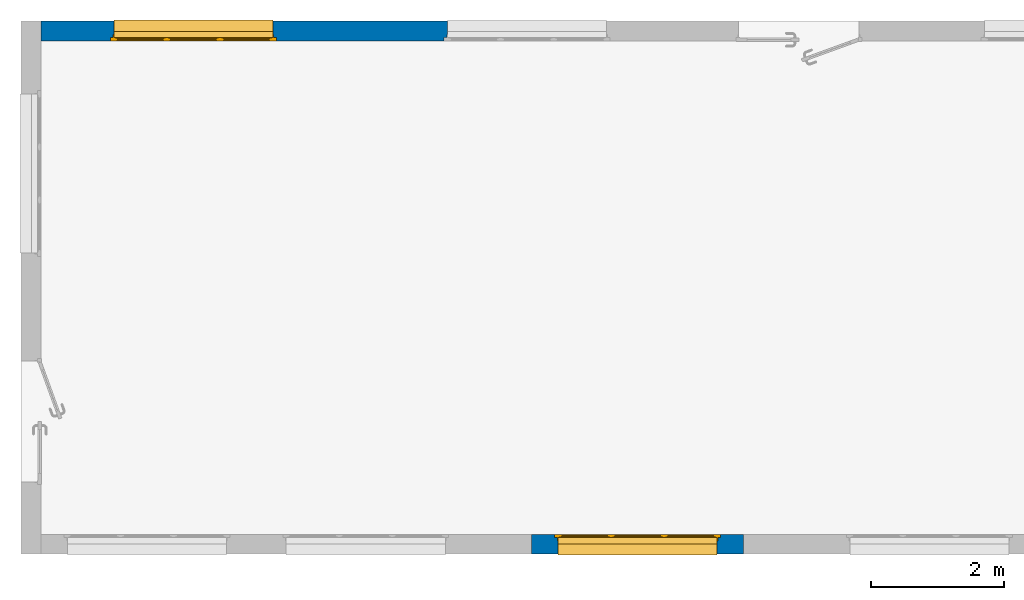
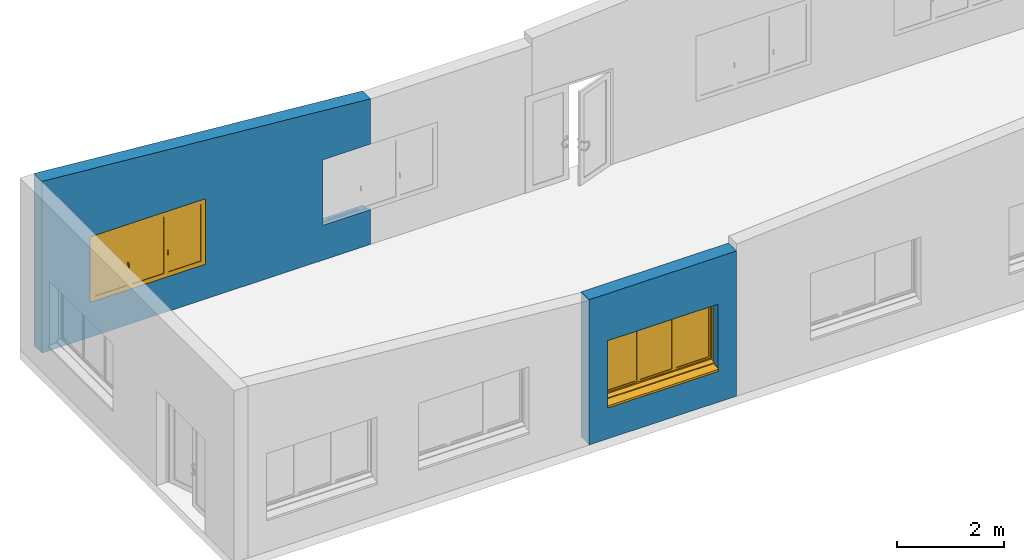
# One storey, part 3 of 8: 2 walls, 2 windows, 3 openings.
"""IFC2X3 building model written with IfcOpenShell, lengths in metres."""

from ifc_helpers import new_model, entity, si_unit, converted_unit, derived_unit, direction, frame, frame_2d, origin, place, context, subcontext, project, spatial, polyline, rectangle, extrude, clip, bounded_halfspace, faceted_brep, source, transform, mapped, material, material_list, layer, layer_set, layer_usage, type_object, type_shapes, element, fill, save


model = new_model("IFC2X3")

# Units and contexts
model_context = context("Model", 3, precision=1e-05, world=origin(), true_north=direction((6.12303176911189e-17, 1.0)))
body_context = subcontext(model_context, "Body", "Model", "MODEL_VIEW")
ifc_project = project(units=[si_unit("LENGTHUNIT", "METRE"), si_unit("AREAUNIT", "SQUARE_METRE"), si_unit("VOLUMEUNIT", "CUBIC_METRE"), converted_unit("PLANEANGLEUNIT", "DEGREE", entity("IfcRatioMeasure", 0.0174532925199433), si_unit("PLANEANGLEUNIT", "RADIAN"), dimensions=[0, 0, 0, 0, 0, 0, 0]), si_unit("MASSUNIT", "GRAM", prefix="KILO"), derived_unit("MASSDENSITYUNIT", [(si_unit("MASSUNIT", "GRAM", prefix="KILO"), 1), (si_unit("LENGTHUNIT", "METRE"), -3)]), si_unit("TIMEUNIT", "SECOND"), si_unit("FREQUENCYUNIT", "HERTZ"), si_unit("THERMODYNAMICTEMPERATUREUNIT", "DEGREE_CELSIUS"), derived_unit("THERMALTRANSMITTANCEUNIT", [(si_unit("MASSUNIT", "GRAM", prefix="KILO"), 1), (si_unit("THERMODYNAMICTEMPERATUREUNIT", "KELVIN"), -1), (si_unit("TIMEUNIT", "SECOND"), -3)]), derived_unit("VOLUMETRICFLOWRATEUNIT", [(si_unit("LENGTHUNIT", "METRE"), 3), (si_unit("TIMEUNIT", "SECOND"), -1)]), si_unit("ELECTRICCURRENTUNIT", "AMPERE"), si_unit("ELECTRICVOLTAGEUNIT", "VOLT"), si_unit("POWERUNIT", "WATT"), si_unit("FORCEUNIT", "NEWTON", prefix="KILO"), si_unit("ILLUMINANCEUNIT", "LUX"), si_unit("LUMINOUSFLUXUNIT", "LUMEN"), si_unit("LUMINOUSINTENSITYUNIT", "CANDELA"), derived_unit("USERDEFINED", [(si_unit("MASSUNIT", "GRAM", prefix="KILO"), -1), (si_unit("LENGTHUNIT", "METRE"), -2), (si_unit("TIMEUNIT", "SECOND"), 3), (si_unit("LUMINOUSFLUXUNIT", "LUMEN"), 1)]), derived_unit("LINEARVELOCITYUNIT", [(si_unit("LENGTHUNIT", "METRE"), 1), (si_unit("TIMEUNIT", "SECOND"), -1)]), si_unit("PRESSUREUNIT", "PASCAL"), derived_unit("USERDEFINED", [(si_unit("LENGTHUNIT", "METRE"), -2), (si_unit("MASSUNIT", "GRAM", prefix="KILO"), 1), (si_unit("TIMEUNIT", "SECOND"), -2)])], contexts=[model_context])

# Site, building, storey
site_placement = place(None, origin())
site = spatial("IfcSite", under=ifc_project, at=site_placement, Name="Default", CompositionType="ELEMENT")
building_placement = place(site_placement, origin())
building = spatial("IfcBuilding", under=site, at=building_placement, CompositionType="ELEMENT")
storey_placement = place(building_placement, frame((0.0, 0.0, 3.3)))
storey = spatial("IfcBuildingStorey", under=building, at=storey_placement, Name="Niveau 1", CompositionType="ELEMENT", Elevation=3.3)

# Wall, openings, window
ifc_material_1 = material(Name="Maçonnerie - Voile BA")
ifc_layer_1 = layer(ifc_material_1, 0.18)
ifc_material_2 = material(Name="Maçonnerie - Isolant")
ifc_layer_2 = layer(ifc_material_2, 0.12)
ifc_layer_set = layer_set([ifc_layer_1, ifc_layer_2], Name="Mur de base:Ext. Voile BA 18 + Isolant 12")
ifc_layer_usage_1 = layer_usage(ifc_layer_set, "AXIS2", "NEGATIVE", 0.15)
wall_type = type_object("IfcWallType", Name="Mur de base:Ext. Voile BA 18 + Isolant 12", PredefinedType="STANDARD", material=ifc_layer_set)
wall_1_placement = place(storey_placement, frame((-12.0839657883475, 2.85911858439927, 0.0)))
wall_1 = element("IfcWallStandardCase", 1, at=wall_1_placement, inside=storey, type_object=wall_type, material=ifc_layer_usage_1, Name="Mur de base:Ext. Voile BA 18 + Isolant 12", ObjectType="Mur de base:Ext. Voile BA 18 + Isolant 12", context=body_context, shape_type="Clipping", body=[
    clip(extrude(rectangle(XDim=7.13129703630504, YDim=0.3, at=frame_2d((3.56564851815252, -4.16333634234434e-17), x_axis=(-1.0, 0.0))), origin(), (0.0, 0.0, 1.0), 3.94), bounded_halfspace(frame((0.0, -0.15, 3.94), z_axis=(0.084127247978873, 0.0, 0.996455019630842), x_axis=(-0.996455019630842, 0.0, 0.084127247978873)), False, frame((0.0, -0.15, 3.94)), polyline([(0.0, 0.0), (7.13129703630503, 0.0), (7.13129703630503, 0.3), (0.0, 0.3), (0.0, 0.0)]))),
])
opening_1_placement = place(wall_1_placement, frame((6.08129703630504, -0.50000000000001, 0.72)))
element("IfcOpeningElement", 2, at=opening_1_placement, cuts=wall_1, Name="Mur de base:Ext. Voile BA 18 + Isolant 12", ObjectType="Opening", context=body_context, shape_type="Brep", body=[
    faceted_brep([(0.0499999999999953, 0.429999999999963, 0.0800000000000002), (0.0499999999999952, 0.450000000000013, 0.0800000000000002), (0.0499999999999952, 0.450000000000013, 1.53), (0.0499999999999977, 1.0, 1.53), (0.0499999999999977, 1.0, 0.0), (0.0499999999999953, 0.429999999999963, 0.0), (2.44999999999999, 0.0, 0.0800000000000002), (2.45, 0.35000000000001, 0.0800000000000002), (2.45, 0.35000000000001, 1.53), (2.44999999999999, 0.0, 1.53), (0.0499999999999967, 0.0, 0.0800000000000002), (0.0499999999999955, 0.35000000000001, 0.0800000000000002), (0.0, 0.35000000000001, 0.0800000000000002), (0.0, 0.400000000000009, 0.0800000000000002), (0.0399999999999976, 0.40000000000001, 0.0800000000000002), (0.0399999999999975, 0.450000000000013, 0.0800000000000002), (2.45, 0.429999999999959, 0.0800000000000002), (2.45, 0.450000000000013, 0.0800000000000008), (2.46, 0.450000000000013, 0.0800000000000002), (2.46, 0.400000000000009, 0.0800000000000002), (2.5, 0.400000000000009, 0.0800000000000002), (2.5, 0.35000000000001, 0.0800000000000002), (0.0499999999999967, 0.0, 1.53), (2.44999999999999, 0.450000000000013, 1.53), (2.45, 1.0, 1.53), (2.45, 1.0, 0.0), (2.45, 0.429999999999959, 0.0), (0.0, 0.35000000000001, 1.58), (0.0, 0.40000000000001, 1.58), (2.5, 0.40000000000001, 1.58), (2.46, 0.40000000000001, 1.54), (0.0399999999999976, 0.40000000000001, 1.54), (0.0399999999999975, 0.450000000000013, 1.54), (2.46, 0.450000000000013, 1.54), (0.0499999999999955, 0.35000000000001, 1.53), (2.5, 0.35000000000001, 1.58)], [[[0, 1, 2, 3, 4, 5]], [[6, 7, 8, 9]], [[10, 11, 12, 13, 14, 15, 1, 0, 16, 17, 18, 19, 20, 21, 7, 6]], [[10, 6, 9, 22]], [[3, 2, 23, 24]], [[3, 24, 25, 4]], [[4, 25, 26, 5]], [[5, 26, 16, 0]], [[12, 27, 28, 13]], [[13, 28, 29, 20, 19, 30, 31, 14]], [[14, 31, 32, 15]], [[15, 32, 33, 18, 17, 23, 2, 1]], [[11, 34, 8, 7, 21, 35, 27, 12]], [[27, 35, 29, 28]], [[30, 33, 32, 31]], [[29, 35, 21, 20]], [[19, 18, 33, 30]], [[9, 8, 34, 22]], [[24, 23, 17, 16, 26, 25]], [[22, 34, 11, 10]]]),
])
opening_2_placement = place(wall_1_placement, frame((1.05000000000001, -0.500000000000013, 0.720000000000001)))
opening_2 = element("IfcOpeningElement", 3, at=opening_2_placement, cuts=wall_1, Name="Mur de base:Ext. Voile BA 18 + Isolant 12", ObjectType="Opening", context=body_context, shape_type="Brep", body=[
    faceted_brep([(0.0499999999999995, 0.429999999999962, 0.0800000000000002), (0.0499999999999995, 0.450000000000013, 0.0800000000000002), (0.0499999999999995, 0.450000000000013, 1.53), (0.0500000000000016, 1.0, 1.53), (0.0500000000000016, 1.0, 0.0), (0.0499999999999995, 0.429999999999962, 0.0), (2.45, 0.0, 0.0800000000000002), (2.45, 0.350000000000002, 0.0800000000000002), (2.45, 0.350000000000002, 1.53), (2.45, 0.0, 1.53), (0.0499999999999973, 0.0, 0.0800000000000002), (0.0499999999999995, 0.35000000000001, 0.0800000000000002), (0.0, 0.35000000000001, 0.0800000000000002), (0.0, 0.400000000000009, 0.0800000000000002), (0.0399999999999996, 0.400000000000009, 0.0800000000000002), (0.0399999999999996, 0.450000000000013, 0.0800000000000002), (2.45, 0.42999999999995, 0.0800000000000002), (2.45, 0.450000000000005, 0.0800000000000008), (2.46, 0.450000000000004, 0.0800000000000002), (2.46, 0.400000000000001, 0.0800000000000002), (2.5, 0.400000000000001, 0.0800000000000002), (2.5, 0.350000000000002, 0.0800000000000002), (0.0499999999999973, 0.0, 1.53), (2.45, 0.450000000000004, 1.53), (2.45, 1.0, 1.53), (2.45, 1.0, 0.0), (2.45, 0.429999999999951, 0.0), (0.0, 0.35000000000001, 1.58), (0.0, 0.40000000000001, 1.58), (2.5, 0.400000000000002, 1.58), (2.46, 0.400000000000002, 1.54), (0.0399999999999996, 0.400000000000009, 1.54), (0.0399999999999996, 0.450000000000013, 1.54), (2.46, 0.450000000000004, 1.54), (0.0499999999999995, 0.35000000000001, 1.53), (2.5, 0.350000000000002, 1.58)], [[[0, 1, 2, 3, 4, 5]], [[6, 7, 8, 9]], [[10, 11, 12, 13, 14, 15, 1, 0, 16, 17, 18, 19, 20, 21, 7, 6]], [[10, 6, 9, 22]], [[3, 2, 23, 24]], [[3, 24, 25, 4]], [[4, 25, 26, 5]], [[5, 26, 16, 0]], [[12, 27, 28, 13]], [[13, 28, 29, 20, 19, 30, 31, 14]], [[14, 31, 32, 15]], [[15, 32, 33, 18, 17, 23, 2, 1]], [[11, 34, 8, 7, 21, 35, 27, 12]], [[27, 35, 29, 28]], [[30, 33, 32, 31]], [[29, 35, 21, 20]], [[19, 18, 33, 30]], [[9, 8, 34, 22]], [[24, 23, 17, 16, 26, 25]], [[22, 34, 11, 10]]]),
])
ifc_material_3 = material(Name="Fenêtre - Poignée")
ifc_material_4 = material(Name="Fenêtre - Appui")
ifc_material_5 = material(Name="Fenêtre - Cadre")
ifc_material_6 = material(Name="Fenêtre - Vitrage")
ifc_material_list_1 = material_list([ifc_material_3, ifc_material_4, ifc_material_5, ifc_material_6])
ifc_material_list_2 = material_list([ifc_material_3, ifc_material_4, ifc_material_5, ifc_material_6])
window_style = type_object("IfcWindowStyle", Name="2.40m x 1.45m - Appui Béton", ConstructionType="NOTDEFINED", OperationType="TRIPLE_PANEL_VERTICAL", ParameterTakesPrecedence=False, Sizeable=False, material=ifc_material_list_2)
shared_shape = source(origin(), body_context, "Body", "Brep", [
    faceted_brep([(0.83064600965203, -0.656000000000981, 0.702033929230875), (0.83203392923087, -0.656000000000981, 0.700646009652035), (0.83203392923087, -0.656000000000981, 0.68933230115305), (0.830667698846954, -0.656000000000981, 0.687966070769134), (0.819332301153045, -0.656000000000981, 0.687966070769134), (0.817966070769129, -0.656000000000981, 0.68933230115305), (0.817966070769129, -0.656000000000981, 0.700646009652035), (0.819353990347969, -0.656000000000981, 0.702033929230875), (0.83064600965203, -0.66891354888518, 0.702033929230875), (0.83203392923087, -0.668338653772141, 0.700646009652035), (0.83203392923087, -0.681646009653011, 0.687338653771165), (0.83203392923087, -0.681646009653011, 0.600000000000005), (0.83203392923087, -0.670332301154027, 0.600000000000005), (0.83203392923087, -0.670332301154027, 0.68265236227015), (0.83203392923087, -0.663652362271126, 0.68933230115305), (0.830667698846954, -0.663086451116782, 0.687966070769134), (0.819332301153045, -0.663086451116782, 0.687966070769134), (0.817966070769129, -0.663652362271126, 0.68933230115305), (0.817966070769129, -0.670332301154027, 0.68265236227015), (0.817966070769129, -0.670332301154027, 0.600000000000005), (0.817966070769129, -0.681646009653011, 0.600000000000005), (0.817966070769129, -0.681646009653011, 0.687338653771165), (0.817966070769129, -0.668338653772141, 0.700646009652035), (0.81935399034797, -0.66891354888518, 0.702033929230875), (0.83064600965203, -0.683033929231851, 0.687913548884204), (0.830667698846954, -0.668966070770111, 0.682086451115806), (0.819332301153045, -0.668966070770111, 0.682086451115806), (0.819353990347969, -0.683033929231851, 0.687913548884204), (0.83064600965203, -0.683033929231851, 0.600000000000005), (0.819353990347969, -0.683033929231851, 0.600000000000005), (0.819332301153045, -0.668966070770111, 0.600000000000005), (0.830667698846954, -0.668966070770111, 0.600000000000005)], [[[0, 1, 2, 3, 4, 5, 6, 7]], [[1, 0, 8, 9]], [[2, 1, 9, 10, 11, 12, 13, 14]], [[3, 2, 14, 15]], [[4, 3, 15, 16]], [[5, 4, 16, 17]], [[6, 5, 17, 18, 19, 20, 21, 22]], [[7, 6, 22, 23]], [[0, 7, 23, 8]], [[9, 8, 24, 10]], [[15, 14, 13, 25]], [[16, 15, 25, 26]], [[17, 16, 26, 18]], [[23, 22, 21, 27]], [[8, 23, 27, 24]], [[28, 29, 20, 19, 30, 31, 12, 11]], [[10, 24, 28, 11]], [[25, 13, 12, 31]], [[26, 25, 31, 30]], [[18, 26, 30, 19]], [[27, 21, 20, 29]], [[24, 27, 29, 28]]]),
    faceted_brep([(0.832000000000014, -0.656000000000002, 0.720000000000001), (0.817999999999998, -0.656000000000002, 0.720000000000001), (0.812999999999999, -0.656000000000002, 0.715000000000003), (0.812999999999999, -0.656000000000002, 0.644999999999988), (0.817999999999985, -0.656000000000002, 0.640000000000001), (0.832000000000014, -0.656000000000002, 0.640000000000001), (0.837, -0.656000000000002, 0.644999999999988), (0.837, -0.656000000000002, 0.715000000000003), (0.832000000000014, -0.650000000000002, 0.720000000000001), (0.837, -0.650000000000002, 0.715000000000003), (0.837, -0.650000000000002, 0.644999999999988), (0.832000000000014, -0.650000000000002, 0.640000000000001), (0.817999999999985, -0.650000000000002, 0.640000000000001), (0.812999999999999, -0.650000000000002, 0.644999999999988), (0.812999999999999, -0.650000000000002, 0.715000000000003), (0.817999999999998, -0.650000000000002, 0.720000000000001)], [[[0, 1, 2, 3, 4, 5, 6, 7]], [[8, 9, 10, 11, 12, 13, 14, 15]], [[1, 0, 8, 15]], [[2, 1, 15, 14]], [[3, 2, 14, 13]], [[4, 3, 13, 12]], [[5, 4, 12, 11]], [[6, 5, 11, 10]], [[7, 6, 10, 9]], [[0, 7, 9, 8]]]),
    faceted_brep([(1.68064600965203, -0.656000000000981, 0.702033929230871), (1.68203392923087, -0.656000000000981, 0.700646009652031), (1.68203392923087, -0.656000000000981, 0.689332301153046), (1.68066769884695, -0.656000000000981, 0.68796607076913), (1.66933230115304, -0.656000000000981, 0.68796607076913), (1.66796607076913, -0.656000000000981, 0.689332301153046), (1.66796607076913, -0.656000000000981, 0.700646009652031), (1.66935399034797, -0.656000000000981, 0.702033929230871), (1.68064600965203, -0.66891354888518, 0.702033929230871), (1.68203392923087, -0.668338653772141, 0.700646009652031), (1.68203392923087, -0.681646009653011, 0.687338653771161), (1.68203392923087, -0.681646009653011, 0.600000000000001), (1.68203392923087, -0.670332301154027, 0.600000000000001), (1.68203392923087, -0.670332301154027, 0.682652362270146), (1.68203392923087, -0.663652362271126, 0.689332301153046), (1.68066769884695, -0.663086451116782, 0.68796607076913), (1.66933230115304, -0.663086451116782, 0.68796607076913), (1.66796607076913, -0.663652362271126, 0.689332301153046), (1.66796607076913, -0.670332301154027, 0.682652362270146), (1.66796607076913, -0.670332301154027, 0.600000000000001), (1.66796607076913, -0.681646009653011, 0.600000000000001), (1.66796607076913, -0.681646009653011, 0.687338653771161), (1.66796607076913, -0.668338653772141, 0.700646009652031), (1.66935399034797, -0.66891354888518, 0.702033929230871), (1.68064600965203, -0.683033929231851, 0.6879135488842), (1.68066769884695, -0.668966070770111, 0.682086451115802), (1.66933230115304, -0.668966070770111, 0.682086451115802), (1.66935399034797, -0.683033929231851, 0.6879135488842), (1.68064600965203, -0.683033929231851, 0.600000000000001), (1.66935399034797, -0.683033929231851, 0.600000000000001), (1.66933230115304, -0.668966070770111, 0.600000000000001), (1.68066769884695, -0.668966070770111, 0.600000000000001)], [[[0, 1, 2, 3, 4, 5, 6, 7]], [[1, 0, 8, 9]], [[2, 1, 9, 10, 11, 12, 13, 14]], [[3, 2, 14, 15]], [[4, 3, 15, 16]], [[5, 4, 16, 17]], [[6, 5, 17, 18, 19, 20, 21, 22]], [[7, 6, 22, 23]], [[0, 7, 23, 8]], [[9, 8, 24, 10]], [[15, 14, 13, 25]], [[16, 15, 25, 26]], [[17, 16, 26, 18]], [[23, 22, 21, 27]], [[8, 23, 27, 24]], [[28, 29, 20, 19, 30, 31, 12, 11]], [[10, 24, 28, 11]], [[25, 13, 12, 31]], [[26, 25, 31, 30]], [[18, 26, 30, 19]], [[27, 21, 20, 29]], [[24, 27, 29, 28]]]),
    faceted_brep([(1.68200000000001, -0.656000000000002, 0.719999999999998), (1.668, -0.656000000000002, 0.719999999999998), (1.663, -0.656000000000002, 0.714999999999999), (1.663, -0.656000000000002, 0.644999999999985), (1.66799999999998, -0.656000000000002, 0.639999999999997), (1.68200000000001, -0.656000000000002, 0.639999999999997), (1.687, -0.656000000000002, 0.644999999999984), (1.687, -0.656000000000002, 0.714999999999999), (1.68200000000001, -0.650000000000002, 0.719999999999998), (1.687, -0.650000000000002, 0.714999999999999), (1.687, -0.650000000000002, 0.644999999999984), (1.68200000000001, -0.650000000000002, 0.639999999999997), (1.66799999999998, -0.650000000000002, 0.639999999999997), (1.663, -0.650000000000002, 0.644999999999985), (1.663, -0.650000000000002, 0.714999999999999), (1.668, -0.650000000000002, 0.719999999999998)], [[[0, 1, 2, 3, 4, 5, 6, 7]], [[8, 9, 10, 11, 12, 13, 14, 15]], [[1, 0, 8, 15]], [[2, 1, 15, 14]], [[3, 2, 14, 13]], [[4, 3, 13, 12]], [[5, 4, 12, 11]], [[6, 5, 11, 10]], [[7, 6, 10, 9]], [[0, 7, 9, 8]]]),
    faceted_brep([(0.050000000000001, -0.569999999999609, 0.0799999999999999), (0.0500000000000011, -0.519999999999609, 0.0799999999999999), (0.0500000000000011, -0.519999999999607, 0.0650000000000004), (0.0500000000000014, -0.334999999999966, 0.0455557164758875), (0.0500000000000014, -0.334999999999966, 0.0), (0.050000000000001, -0.569999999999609, 0.0), (2.45, -0.569999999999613, 0.0799999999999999), (2.45, -0.569999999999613, 0.0), (2.45, -0.33499999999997, 0.0), (2.45, -0.33499999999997, 0.0455557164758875), (2.45, -0.519999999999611, 0.0650000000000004), (2.45, -0.519999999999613, 0.0799999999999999)], [[[0, 1, 2, 3, 4, 5]], [[6, 7, 8, 9, 10, 11]], [[1, 0, 6, 11]], [[2, 1, 11, 10]], [[3, 2, 10, 9]], [[4, 3, 9, 8]], [[5, 4, 8, 7]], [[0, 5, 7, 6]]]),
    faceted_brep([(1.65, -0.610000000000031, 1.53), (1.65, -0.650000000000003, 1.53), (1.65, -0.650000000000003, 0.13), (1.65, -0.610000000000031, 0.13), (0.849999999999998, -0.65, 0.13), (0.849999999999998, -0.610000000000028, 0.13), (0.849999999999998, -0.65, 1.53), (0.899999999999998, -0.65, 0.18), (0.899999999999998, -0.65, 1.48), (1.6, -0.650000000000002, 1.48), (1.6, -0.650000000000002, 0.18), (0.849999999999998, -0.610000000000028, 1.53), (1.6, -0.61000000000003, 0.179999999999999), (1.6, -0.61000000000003, 1.48), (0.899999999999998, -0.610000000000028, 1.48), (0.899999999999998, -0.610000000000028, 0.18)], [[[0, 1, 2, 3]], [[3, 2, 4, 5]], [[2, 1, 6, 4], [7, 8, 9, 10]], [[5, 4, 6, 11]], [[5, 11, 0, 3], [12, 13, 14, 15]], [[9, 13, 12, 10]], [[10, 12, 15, 7]], [[7, 15, 14, 8]], [[11, 6, 1, 0]], [[8, 14, 13, 9]]]),
    faceted_brep([(0.849999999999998, -0.610000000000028, 1.53), (0.849999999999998, -0.650000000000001, 1.53), (0.849999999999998, -0.650000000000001, 0.13), (0.849999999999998, -0.610000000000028, 0.13), (0.0499999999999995, -0.649999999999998, 0.13), (0.0499999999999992, -0.610000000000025, 0.13), (0.0499999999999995, -0.649999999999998, 1.53), (0.0999999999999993, -0.649999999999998, 0.18), (0.0999999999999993, -0.649999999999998, 1.48), (0.799999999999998, -0.650000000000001, 1.48), (0.799999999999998, -0.650000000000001, 0.18), (0.0499999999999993, -0.610000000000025, 1.53), (0.799999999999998, -0.610000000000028, 0.18), (0.799999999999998, -0.610000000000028, 1.48), (0.0999999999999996, -0.610000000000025, 1.48), (0.0999999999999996, -0.610000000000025, 0.18)], [[[0, 1, 2, 3]], [[3, 2, 4, 5]], [[2, 1, 6, 4], [7, 8, 9, 10]], [[5, 4, 6, 11]], [[5, 11, 0, 3], [12, 13, 14, 15]], [[9, 13, 12, 10]], [[10, 12, 15, 7]], [[7, 15, 14, 8]], [[11, 6, 1, 0]], [[8, 14, 13, 9]]]),
    faceted_brep([(1.7, -0.624000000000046, 0.18), (1.7, -0.624000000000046, 1.48), (2.4, -0.624000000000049, 1.48), (2.4, -0.624000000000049, 0.18), (1.7, -0.636000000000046, 0.18), (1.7, -0.636000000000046, 1.48), (2.4, -0.636000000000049, 1.48), (2.4, -0.636000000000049, 0.18)], [[[0, 1, 2, 3]], [[1, 0, 4, 5]], [[3, 2, 6, 7]], [[0, 3, 7, 4]], [[2, 1, 5, 6]], [[4, 7, 6, 5]]]),
    faceted_brep([(0.799999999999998, -0.624000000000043, 0.18), (0.799999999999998, -0.624000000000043, 1.48), (0.799999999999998, -0.636000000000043, 1.48), (0.799999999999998, -0.636000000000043, 0.18), (0.0999999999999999, -0.624000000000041, 0.18), (0.0999999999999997, -0.636000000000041, 0.18), (0.0999999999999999, -0.624000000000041, 1.48), (0.0999999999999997, -0.636000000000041, 1.48)], [[[0, 1, 2, 3]], [[4, 0, 3, 5]], [[6, 4, 5, 7]], [[7, 5, 3, 2]], [[1, 6, 7, 2]], [[6, 1, 0, 4]]]),
    faceted_brep([(1.6, -0.624000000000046, 0.18), (1.6, -0.624000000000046, 1.48), (1.6, -0.636000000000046, 1.48), (1.6, -0.636000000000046, 0.18), (0.899999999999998, -0.624000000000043, 0.18), (0.899999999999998, -0.636000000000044, 0.18), (0.899999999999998, -0.624000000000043, 1.48), (0.899999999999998, -0.636000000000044, 1.48)], [[[0, 1, 2, 3]], [[4, 0, 3, 5]], [[6, 4, 5, 7]], [[1, 6, 7, 2]], [[7, 5, 3, 2]], [[6, 1, 0, 4]]]),
    faceted_brep([(1.7, -0.610000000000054, 1.48), (1.7, -0.650000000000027, 1.48), (1.7, -0.650000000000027, 0.18), (1.7, -0.610000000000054, 0.18), (2.4, -0.650000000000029, 0.18), (2.4, -0.610000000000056, 0.18), (2.4, -0.650000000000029, 1.48), (2.45, -0.65000000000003, 0.13), (2.45, -0.65000000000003, 1.53), (1.65, -0.650000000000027, 1.53), (1.65, -0.650000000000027, 0.13), (2.4, -0.610000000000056, 1.48), (1.65, -0.610000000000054, 0.13), (1.65, -0.610000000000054, 1.53), (2.45, -0.610000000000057, 1.53), (2.45, -0.610000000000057, 0.13)], [[[0, 1, 2, 3]], [[3, 2, 4, 5]], [[2, 1, 6, 4], [7, 8, 9, 10]], [[5, 4, 6, 11]], [[5, 11, 0, 3], [12, 13, 14, 15]], [[9, 13, 12, 10]], [[10, 12, 15, 7]], [[7, 15, 14, 8]], [[11, 6, 1, 0]], [[8, 14, 13, 9]]], outer=[[True], [True], [False, True], [True], [False, True], [True], [True], [True], [True], [True]]),
    faceted_brep([(0.0, -0.650000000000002, 0.0799999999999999), (0.0, -0.600000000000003, 0.0799999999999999), (0.0499999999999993, -0.600000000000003, 0.0799999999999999), (0.0499999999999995, -0.51500000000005, 0.0800000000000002), (2.45, -0.515000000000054, 0.0799999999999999), (2.45, -0.600000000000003, 0.0800000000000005), (2.5, -0.600000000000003, 0.0799999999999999), (2.5, -0.650000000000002, 0.0799999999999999), (0.0, -0.650000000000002, 1.58), (0.0, -0.600000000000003, 1.58), (2.5, -0.600000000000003, 1.58), (2.45, -0.600000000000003, 0.119376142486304), (0.0499999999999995, -0.600000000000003, 0.119376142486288), (0.0649999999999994, -0.600000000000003, 1.515), (0.0649999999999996, -0.600000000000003, 0.145), (2.435, -0.600000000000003, 0.145), (2.435, -0.600000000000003, 1.515), (0.0499999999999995, -0.50500000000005, 0.0939209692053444), (0.0499999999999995, -0.50500000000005, 0.0749999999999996), (0.0499999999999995, -0.51500000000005, 0.0749999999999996), (2.45, -0.515000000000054, 0.0749999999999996), (2.45, -0.505000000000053, 0.0749999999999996), (2.45, -0.505000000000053, 0.0939209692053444), (2.5, -0.650000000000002, 1.58), (2.45, -0.650000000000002, 1.53), (2.45, -0.650000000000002, 0.13), (0.0499999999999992, -0.65, 0.13), (0.0499999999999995, -0.650000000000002, 1.53), (0.0649999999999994, -0.610000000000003, 1.515), (0.0649999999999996, -0.610000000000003, 0.145), (2.435, -0.610000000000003, 0.145), (2.435, -0.610000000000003, 1.515), (2.45, -0.610000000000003, 1.53), (0.0499999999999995, -0.610000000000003, 1.53), (0.0499999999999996, -0.610000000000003, 0.13), (2.45, -0.610000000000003, 0.13)], [[[0, 1, 2, 3, 4, 5, 6, 7]], [[1, 0, 8, 9]], [[1, 9, 10, 6, 5, 11, 12, 2], [13, 14, 15, 16]], [[12, 17, 18, 19, 3, 2]], [[3, 19, 20, 4]], [[4, 20, 21, 22, 11, 5]], [[6, 10, 23, 7]], [[0, 7, 23, 8], [24, 25, 26, 27]], [[13, 28, 29, 14]], [[29, 30, 15, 14]], [[31, 16, 15, 30]], [[17, 12, 11, 22]], [[32, 33, 34, 35], [28, 31, 30, 29]], [[34, 33, 27, 26]], [[26, 25, 35, 34]], [[24, 32, 35, 25]], [[18, 17, 22, 21]], [[19, 18, 21, 20]], [[13, 16, 31, 28]], [[33, 32, 24, 27]], [[10, 9, 8, 23]]]),
    faceted_brep([(0.0499999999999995, -0.550000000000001, 0.0799999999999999), (0.0499999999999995, -0.600000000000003, 0.0799999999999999), (0.039999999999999, -0.600000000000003, 0.0799999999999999), (0.039999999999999, -0.550000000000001, 0.0799999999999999), (0.0499999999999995, -0.550000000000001, 1.53), (0.0499999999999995, -0.600000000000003, 1.53), (2.45, -0.600000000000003, 1.53), (2.45, -0.600000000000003, 0.0799999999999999), (2.46, -0.600000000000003, 0.0800000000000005), (2.46, -0.600000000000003, 1.54), (0.039999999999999, -0.600000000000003, 1.54), (0.039999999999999, -0.550000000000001, 1.54), (2.46, -0.550000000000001, 1.54), (2.46, -0.550000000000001, 0.0799999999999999), (2.45, -0.550000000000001, 0.0800000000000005), (2.45, -0.550000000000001, 1.53)], [[[0, 1, 2, 3]], [[1, 0, 4, 5]], [[2, 1, 5, 6, 7, 8, 9, 10]], [[3, 2, 10, 11]], [[0, 3, 11, 12, 13, 14, 15, 4]], [[6, 15, 14, 7]], [[14, 13, 8, 7]], [[12, 9, 8, 13]], [[5, 4, 15, 6]], [[11, 10, 9, 12]]]),
    faceted_brep([(1.67, -0.602000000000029, 1.515), (1.63, -0.602000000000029, 1.515), (1.63, -0.610000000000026, 1.515), (1.67, -0.610000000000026, 1.515), (1.67, -0.602000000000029, 0.145), (1.63, -0.602000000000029, 0.145), (1.63, -0.610000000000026, 0.145), (1.67, -0.610000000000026, 0.145)], [[[0, 1, 2, 3]], [[1, 0, 4, 5]], [[2, 1, 5, 6]], [[3, 2, 6, 7]], [[0, 3, 7, 4]], [[4, 7, 6, 5]]]),
    faceted_brep([(0.870000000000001, -0.602000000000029, 0.145), (0.870000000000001, -0.610000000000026, 0.145), (0.83, -0.610000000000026, 0.145), (0.83, -0.602000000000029, 0.145), (0.83, -0.602000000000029, 1.515), (0.870000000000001, -0.602000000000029, 1.515), (0.83, -0.610000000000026, 1.515), (0.870000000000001, -0.610000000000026, 1.515)], [[[0, 1, 2, 3]], [[4, 5, 0, 3]], [[6, 4, 3, 2]], [[7, 6, 2, 1]], [[5, 7, 1, 0]], [[5, 4, 6, 7]]]),
])
type_shapes(window_style, [shared_shape])
window_1_placement = place(opening_2_placement, frame((0.0, 1.0, 0.0)))
window_1 = element("IfcWindow", 4, at=window_1_placement, inside=storey, type_object=window_style, material=ifc_material_list_1, Name="3 Vantaux - Droits:2.40m x 1.45m - Appui Béton", ObjectType="2.40m x 1.45m - Appui Béton", OverallHeight=1.58, OverallWidth=2.5, context=body_context, shape_type="MappedRepresentation", body=[
    mapped(shared_shape, transform((0.0, 0.0, 0.0), scale=1.0)),
])
fill(opening_2, window_1)

# Wall, opening, window
ifc_layer_usage_2 = layer_usage(ifc_layer_set, "AXIS2", "NEGATIVE", 0.15)
wall_2_placement = place(storey_placement, frame((-1.48534366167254, -4.88088141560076, 0.0), z_axis=(0.0, 0.0, 1.0), x_axis=(-1.0, 0.0, 0.0)))
wall_2 = element("IfcWallStandardCase", 5, at=wall_2_placement, inside=storey, type_object=wall_type, material=ifc_layer_usage_2, Name="Mur de base:Ext. Voile BA 18 + Isolant 12", ObjectType="Mur de base:Ext. Voile BA 18 + Isolant 12", context=body_context, shape_type="SweptSolid", body=[
    extrude(rectangle(XDim=3.2, YDim=0.299999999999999, at=frame_2d((1.6, -3.05311331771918e-16), x_axis=(-1.0, 0.0))), origin(), (0.0, 0.0, 1.0), 3.33),
])
opening_3_placement = place(wall_2_placement, frame((2.85, 0.500000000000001, 0.720000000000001), z_axis=(0.0, 0.0, 1.0), x_axis=(-1.0, 0.0, 0.0)))
opening_3 = element("IfcOpeningElement", 6, at=opening_3_placement, cuts=wall_2, Name="Mur de base:Ext. Voile BA 18 + Isolant 12", ObjectType="Opening", context=body_context, shape_type="Brep", body=[
    faceted_brep([(2.45, 0.57000000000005, 0.0800000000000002), (2.45, 0.549999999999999, 0.0800000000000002), (2.45, 0.549999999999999, 1.53), (2.45, 0.0, 1.53), (2.45, 0.0, 0.0), (2.45, 0.57000000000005, 0.0), (0.0500000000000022, 1.0, 0.0800000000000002), (0.0500000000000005, 0.650000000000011, 0.0800000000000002), (0.0500000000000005, 0.650000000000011, 1.53), (0.0500000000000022, 1.0, 1.53), (2.45, 1.0, 0.0800000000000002), (2.45, 0.650000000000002, 0.0800000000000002), (2.5, 0.650000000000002, 0.0800000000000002), (2.5, 0.600000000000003, 0.0800000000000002), (2.46, 0.600000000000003, 0.0800000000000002), (2.46, 0.549999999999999, 0.0800000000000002), (0.05, 0.570000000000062, 0.0800000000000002), (0.05, 0.550000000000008, 0.0800000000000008), (0.0399999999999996, 0.550000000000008, 0.0800000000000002), (0.0399999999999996, 0.600000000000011, 0.0800000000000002), (0.0, 0.600000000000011, 0.0800000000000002), (0.0, 0.65000000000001, 0.0800000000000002), (2.45, 1.0, 1.53), (0.0500000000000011, 0.550000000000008, 1.53), (0.0499999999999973, 0.0, 1.53), (0.0499999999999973, 0.0, 0.0), (0.05, 0.570000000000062, 0.0), (2.5, 0.650000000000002, 1.58), (2.5, 0.600000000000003, 1.58), (0.0, 0.600000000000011, 1.58), (0.0399999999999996, 0.600000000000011, 1.54), (2.46, 0.600000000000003, 1.54), (2.46, 0.549999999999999, 1.54), (0.0399999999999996, 0.550000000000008, 1.54), (2.45, 0.650000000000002, 1.53), (0.0, 0.650000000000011, 1.58)], [[[0, 1, 2, 3, 4, 5]], [[6, 7, 8, 9]], [[10, 11, 12, 13, 14, 15, 1, 0, 16, 17, 18, 19, 20, 21, 7, 6]], [[10, 6, 9, 22]], [[3, 2, 23, 24]], [[3, 24, 25, 4]], [[4, 25, 26, 5]], [[5, 26, 16, 0]], [[12, 27, 28, 13]], [[13, 28, 29, 20, 19, 30, 31, 14]], [[14, 31, 32, 15]], [[15, 32, 33, 18, 17, 23, 2, 1]], [[11, 34, 8, 7, 21, 35, 27, 12]], [[27, 35, 29, 28]], [[30, 33, 32, 31]], [[29, 35, 21, 20]], [[19, 18, 33, 30]], [[9, 8, 34, 22]], [[24, 23, 17, 16, 26, 25]], [[22, 34, 11, 10]]]),
])
ifc_material_list_3 = material_list([ifc_material_3, ifc_material_4, ifc_material_5, ifc_material_6])
window_2_placement = place(opening_3_placement, frame((2.5, 0.0, 0.0), z_axis=(0.0, 0.0, 1.0), x_axis=(-1.0, 0.0, 0.0)))
window_2 = element("IfcWindow", 7, at=window_2_placement, inside=storey, type_object=window_style, material=ifc_material_list_3, Name="3 Vantaux - Droits:2.40m x 1.45m - Appui Béton", ObjectType="2.40m x 1.45m - Appui Béton", OverallHeight=1.58, OverallWidth=2.5, context=body_context, shape_type="MappedRepresentation", body=[
    mapped(shared_shape, transform((0.0, 0.0, 0.0), scale=1.0)),
])
fill(opening_3, window_2)

save(model, "model.ifc")
